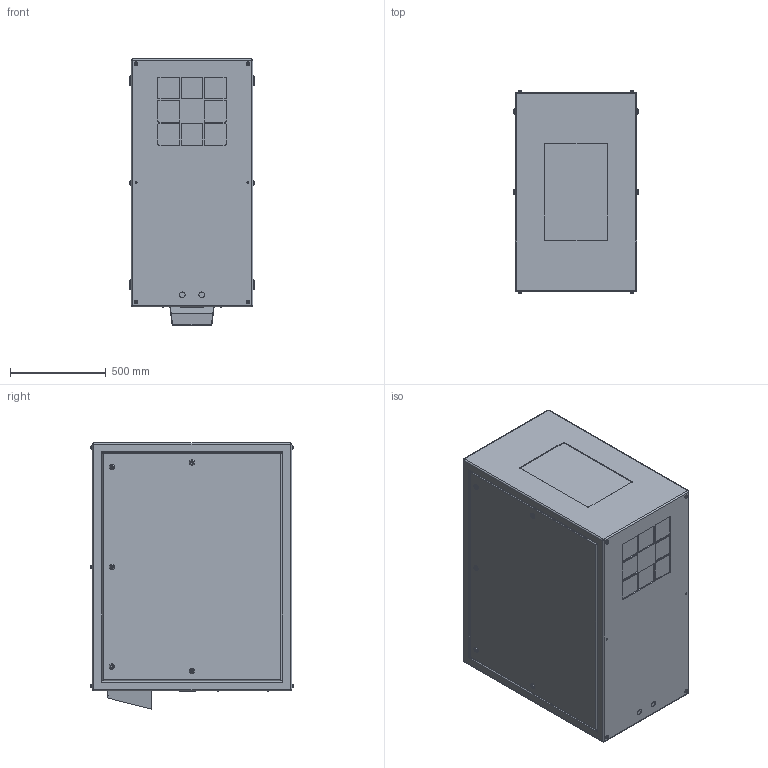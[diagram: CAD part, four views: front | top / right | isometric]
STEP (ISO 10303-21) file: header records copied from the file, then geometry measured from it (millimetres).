
FILE_DESCRIPTION (( 'STEP AP214' ), '1' );
FILE_NAME ('Cyclone 55.250.P.xx R08.STEP', '2020-04-07T14:45:20', ( '' ), ( '' ), 'SwSTEP 2.0', 'SolidWorks 2018', '' );
FILE_SCHEMA (( 'AUTOMOTIVE_DESIGN' ));
Length unit declared in the file: inch
Products named in the file (1): Cyclone 55.250.P.xx R08
Bounding box: 647.7 x 1056.13 x 1390.65 mm (x, y, z)
Volume: 854460623.2 mm3; surface area: 6342717.9 mm2
Topology: 1 solids, 1 shells, 539 faces, 1254 edges, 800 vertices
Faces by surface type: plane 293, cylinder 186, torus 52, sphere 8
Entity records: 20092 total; most frequent: DIRECTION 2754, CARTESIAN_POINT 2634, ORIENTED_EDGE 2492, EDGE_CURVE 1246, AXIS2_PLACEMENT_3D 984, VERTEX_POINT 800, VECTOR 786, LINE 786
